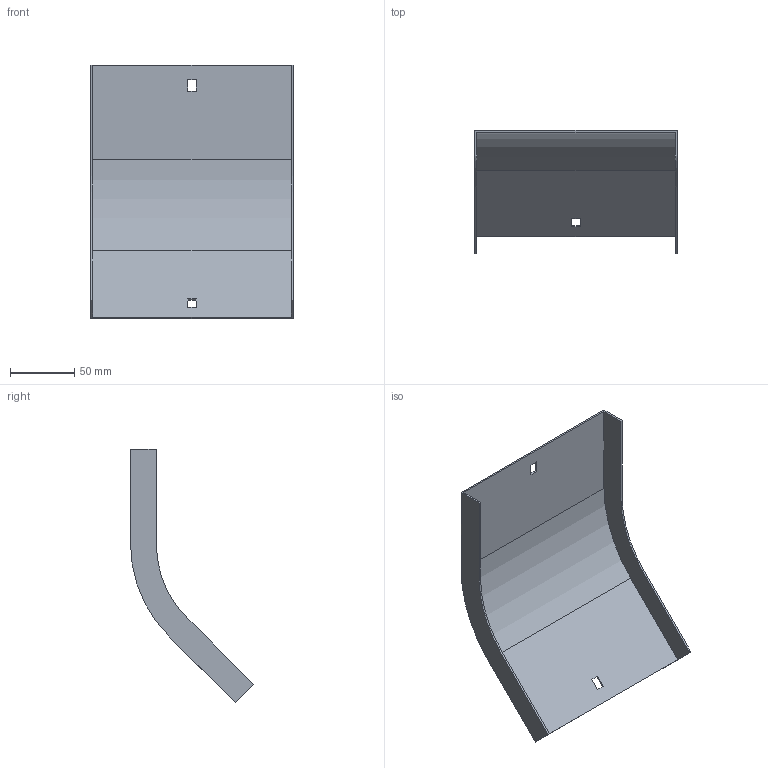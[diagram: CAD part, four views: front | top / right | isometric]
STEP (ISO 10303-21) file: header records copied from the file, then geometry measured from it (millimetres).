
FILE_DESCRIPTION (( 'STEP AP214' ), '1' );
FILE_NAME ('34G1D150.step', '2025-02-21T12:42:16', ( '' ), ( '' ), 'SwSTEP 2.0', 'SolidWorks 2023', '' );
FILE_SCHEMA (( 'AUTOMOTIVE_DESIGN' ));
Length unit declared in the file: millimetre
Products named in the file (1): 34G1D150
Bounding box: 157 x 95.56 x 196.56 mm (x, y, z)
Volume: 64959.3 mm3; surface area: 87919.8 mm2
Topology: 1 solids, 1 shells, 26 faces, 72 edges, 48 vertices
Faces by surface type: plane 22, cylinder 4
Entity records: 855 total; most frequent: CARTESIAN_POINT 147, ORIENTED_EDGE 144, DIRECTION 134, EDGE_CURVE 72, VECTOR 64, LINE 64, VERTEX_POINT 48, AXIS2_PLACEMENT_3D 35
